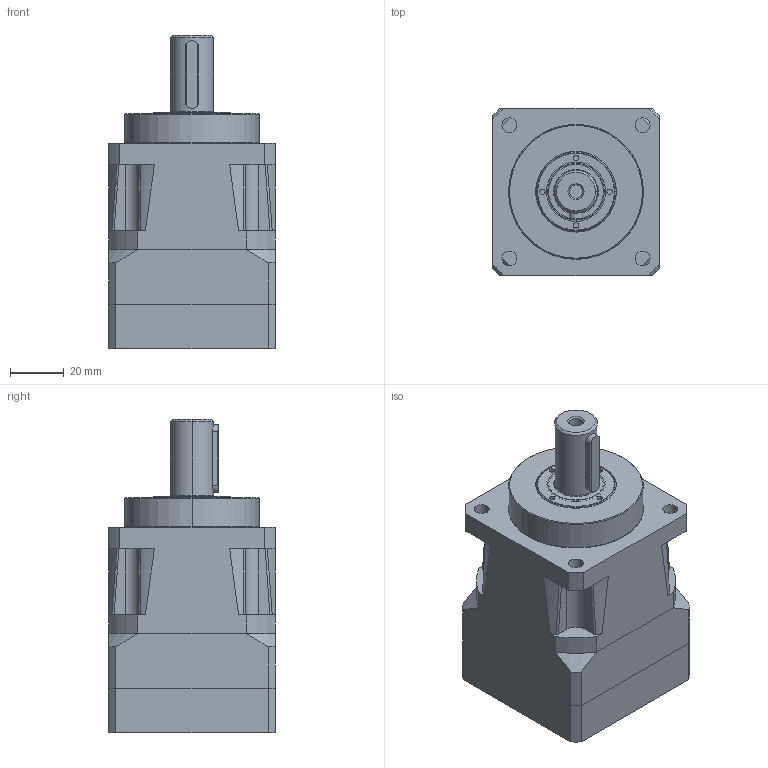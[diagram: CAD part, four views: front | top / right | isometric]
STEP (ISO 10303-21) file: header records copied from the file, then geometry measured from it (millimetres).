
FILE_DESCRIPTION((''),'2;1');
FILE_NAME('PS60-XXX-000-X2_ASM','2009-03-30T',('ata7311'),(''),'PRO/ENGINEER BY PARAMETRIC TECHNOLOGY CORPORATION, 2006300','PRO/ENGINEER BY PARAMETRIC TECHNOLOGY CORPORATION, 2006300','');
FILE_SCHEMA(('CONFIG_CONTROL_DESIGN'));
Products named in the file (14): 13388XXX; 13393000; HD202-0006; 10087128; 13386XXX_ASM; 13394000; 13389XXX; 12292000; 13120000; M5X20; 13384XXX_ASM; 13132001; M4X20; PS60-XXX-000-X2_ASM
Assembly tree (17 placements, depth 3):
  PS60-XXX-000-X2_ASM
    13386XXX_ASM
      13388XXX
      13393000
      HD202-0006
      10087128
    13384XXX_ASM
      13394000
      13389XXX
      12292000  x2
      13120000
      M5X20
    13132001
    M4X20  x4
Bounding box: 62 x 62 x 116.3 mm (x, y, z)
Volume: 192701.7 mm3; surface area: 73691.8 mm2
Topology: 15 solids, 15 shells, 429 faces, 1011 edges, 660 vertices
Faces by surface type: cylinder 181, plane 180, cone 50, torus 10, bspline 8
Entity records: 11599 total; most frequent: CARTESIAN_POINT 2643, DIRECTION 1939, ORIENTED_EDGE 1722, EDGE_CURVE 861, AXIS2_PLACEMENT_3D 775, VERTEX_POINT 562, EDGE_LOOP 431, VECTOR 389
